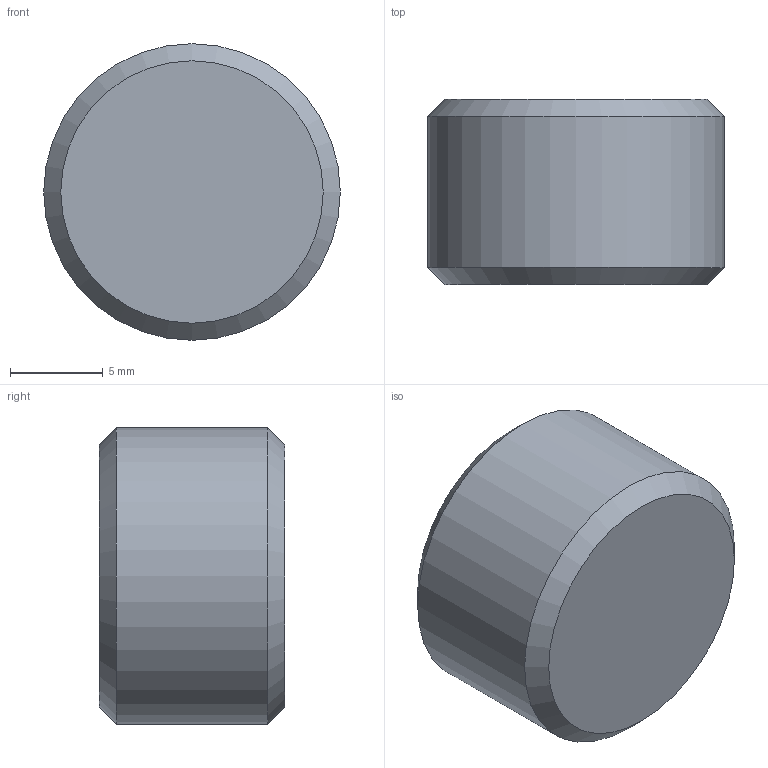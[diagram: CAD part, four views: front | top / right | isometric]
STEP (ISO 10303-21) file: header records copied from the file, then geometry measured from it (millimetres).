
FILE_DESCRIPTION( ( 'STEP AP203' ), '1' );
FILE_NAME( 'C:/Temp/Ganter_Step_05_03_2020/data/3_2/gn252_5/gn_252_5_a/Stainless Steel-Blanking plug GN 252.5-M16x1,5-A.stp', '2020-03-13T05:26:42', ( 'License CC BY-ND 4.0' ), ( 'CADENAS' ), ' ', 'PARTsolutions', ' ' );
FILE_SCHEMA( ( 'CONFIG_CONTROL_DESIGN' ) );
Length unit declared in the file: millimetre
Products named in the file (1): _Stainless Steel-Blanking plug GN 252.5-M16x1,5-A
Bounding box: 16 x 10 x 16 mm (x, y, z)
Volume: 1530 mm3; surface area: 1063.1 mm2
Topology: 1 solids, 1 shells, 19 faces, 42 edges, 25 vertices
Faces by surface type: plane 14, cone 3, cylinder 2
Full cylindrical faces by diameter (mm): 8 x1, 16 x1
Entity records: 520 total; most frequent: DIRECTION 86, CARTESIAN_POINT 79, ORIENTED_EDGE 70, EDGE_CURVE 35, AXIS2_PLACEMENT_3D 31, EDGE_LOOP 24, VERTEX_POINT 24, LINE 24
